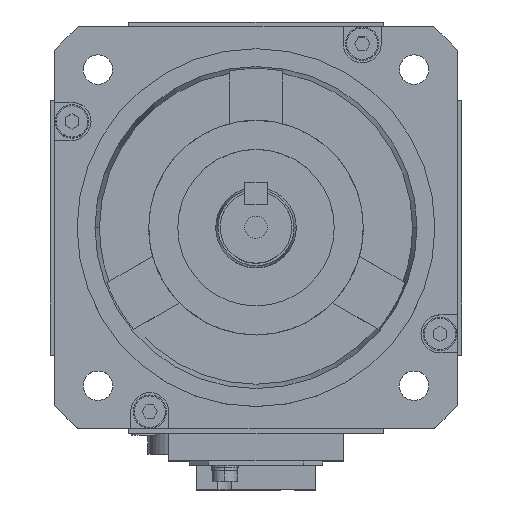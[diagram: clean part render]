
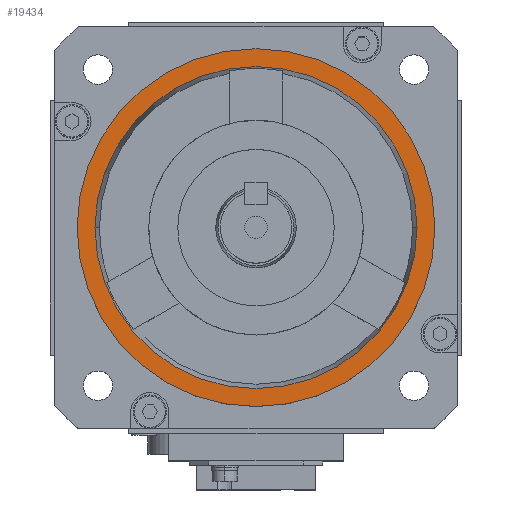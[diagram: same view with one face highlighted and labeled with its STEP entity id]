
A CAD part, top view. The second image highlights one B-rep face of the part: STEP entity #19434.
In plain terms, the highlighted planar face has unit normal (0, 0, 1).
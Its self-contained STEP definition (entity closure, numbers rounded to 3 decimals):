
#2227 = EDGE_CURVE ( 'NONE', #19093, #11341, #9205, .T. ) ;
#2603 = DIRECTION ( 'NONE',  ( 1., 0., 0. ) ) ;
#2607 = DIRECTION ( 'NONE',  ( 0., 0., 1. ) ) ;
#2609 = AXIS2_PLACEMENT_3D ( 'NONE', #2611, #2607, #2603 ) ;
#2611 = CARTESIAN_POINT ( 'NONE',  ( 0., 0., 5. ) ) ;
#2613 = PLANE ( 'NONE',  #2609 ) ;
#4983 = EDGE_CURVE ( 'NONE', #4984, #4985, #14387, .T. ) ;
#4984 = VERTEX_POINT ( 'NONE', #14382 ) ;
#4985 = VERTEX_POINT ( 'NONE', #14381 ) ;
#9202 = DIRECTION ( 'NONE',  ( 1., 0., 0. ) ) ;
#9203 = DIRECTION ( 'NONE',  ( 0., 0., 1. ) ) ;
#9204 = AXIS2_PLACEMENT_3D ( 'NONE', #9209, #9203, #9202 ) ;
#9205 = CIRCLE ( 'NONE', #9204, 36. ) ;
#9209 = CARTESIAN_POINT ( 'NONE',  ( 0., 0., 5. ) ) ;
#11341 = VERTEX_POINT ( 'NONE', #15826 ) ;
#14381 = CARTESIAN_POINT ( 'NONE',  ( -40., 0., 5. ) ) ;
#14382 = CARTESIAN_POINT ( 'NONE',  ( 40., 0., 5. ) ) ;
#14383 = DIRECTION ( 'NONE',  ( 1., 0., 0. ) ) ;
#14384 = DIRECTION ( 'NONE',  ( 0., 0., 1. ) ) ;
#14385 = CARTESIAN_POINT ( 'NONE',  ( 0., 0., 5. ) ) ;
#14386 = AXIS2_PLACEMENT_3D ( 'NONE', #14385, #14384, #14383 ) ;
#14387 = CIRCLE ( 'NONE', #14386, 40. ) ;
#15826 = CARTESIAN_POINT ( 'NONE',  ( -36., 0., 5. ) ) ;
#16538 = CARTESIAN_POINT ( 'NONE',  ( 36., 0., 5. ) ) ;
#16573 = DIRECTION ( 'NONE',  ( 1., 0., 0. ) ) ;
#16574 = DIRECTION ( 'NONE',  ( 0., 0., 1. ) ) ;
#16575 = CARTESIAN_POINT ( 'NONE',  ( 0., 0., 5. ) ) ;
#16576 = AXIS2_PLACEMENT_3D ( 'NONE', #16575, #16574, #16573 ) ;
#16577 = CIRCLE ( 'NONE', #16576, 36. ) ;
#16810 = DIRECTION ( 'NONE',  ( 1., 0., 0. ) ) ;
#16811 = DIRECTION ( 'NONE',  ( 0., 0., 1. ) ) ;
#16812 = CARTESIAN_POINT ( 'NONE',  ( 0., 0., 5. ) ) ;
#16813 = AXIS2_PLACEMENT_3D ( 'NONE', #16812, #16811, #16810 ) ;
#16814 = CIRCLE ( 'NONE', #16813, 40. ) ;
#17095 = FACE_BOUND ( 'NONE', #19242, .T. ) ;
#17096 = FACE_OUTER_BOUND ( 'NONE', #19298, .T. ) ;
#19093 = VERTEX_POINT ( 'NONE', #16538 ) ;
#19104 = EDGE_CURVE ( 'NONE', #11341, #19093, #16577, .T. ) ;
#19217 = ORIENTED_EDGE ( 'NONE', *, *, #19104, .F. ) ;
#19228 = ORIENTED_EDGE ( 'NONE', *, *, #2227, .F. ) ;
#19242 = EDGE_LOOP ( 'NONE', ( #19228, #19217 ) ) ;
#19269 = ORIENTED_EDGE ( 'NONE', *, *, #4983, .T. ) ;
#19274 = EDGE_CURVE ( 'NONE', #4985, #4984, #16814, .T. ) ;
#19292 = ORIENTED_EDGE ( 'NONE', *, *, #19274, .T. ) ;
#19298 = EDGE_LOOP ( 'NONE', ( #19292, #19269 ) ) ;
#19434 = ADVANCED_FACE ( 'NONE', ( #17096, #17095 ), #2613, .T. ) ;
